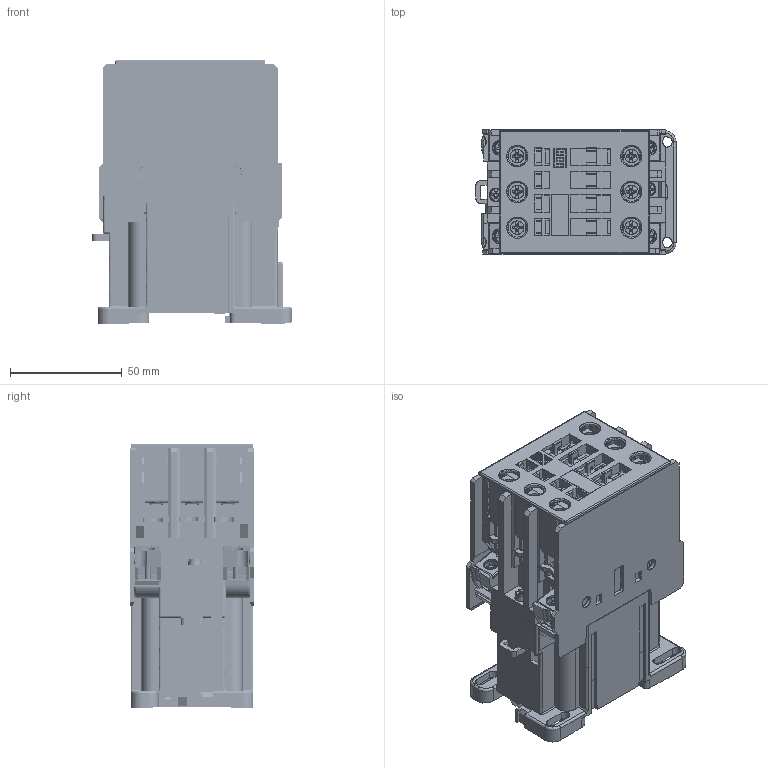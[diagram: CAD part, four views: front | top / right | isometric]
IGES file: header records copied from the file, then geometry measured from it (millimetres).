
Start section: SolidWorks IGES file using analytic representation for surfaces
Global section: file name: Q:\GROUPS\BR_SC_JGS_WA_TECNICO\ENG\Usuarios\Rodrigob\conversão\contatores\Produto\CWM32...40 DC\CWM32...40 DC.IGS; native system: SolidWorks 2012; preprocessor: SolidWorks 2012; author: rodrigob; date: 130205.110828; units: millimetre
Bounding box: 89.5 x 55.5 x 117.95 mm (x, y, z)
Surface area: 128914 mm2 (no closed solid volume)
Topology: 0 solids, 0 shells, 4335 faces, 35155 edges, 35109 vertices
Faces by surface type: bspline 3176, revolution 1159
